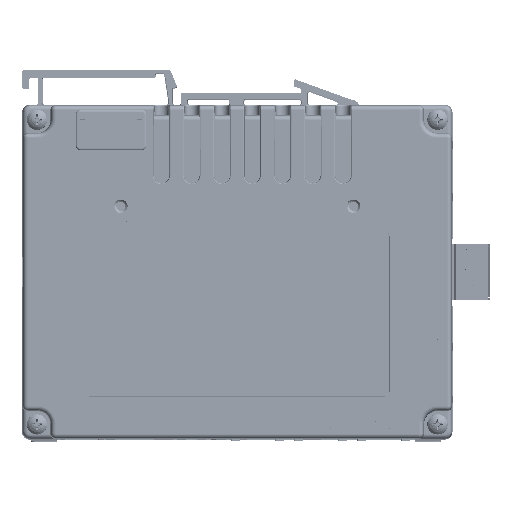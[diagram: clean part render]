
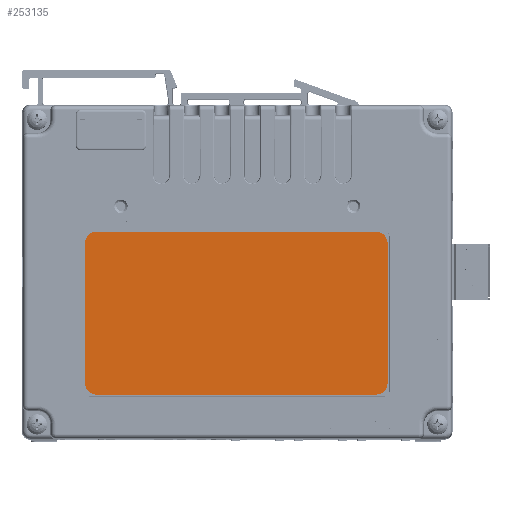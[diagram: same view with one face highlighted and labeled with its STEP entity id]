
A CAD part, top view. The second image highlights one B-rep face of the part: STEP entity #253135.
In plain terms, the highlighted planar face has unit normal (0, 0, 1) as drawn and (0, 1, 0) by its records, which use the part's own axes.
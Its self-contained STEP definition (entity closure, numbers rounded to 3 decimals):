
#7107=CIRCLE('',#302644,3.175);
#7108=CIRCLE('',#302645,3.175);
#7109=CIRCLE('',#302646,3.175);
#7110=CIRCLE('',#302647,3.175);
#16762=PLANE('',#302643);
#90972=ORIENTED_EDGE('',*,*,#127494,.F.);
#90973=ORIENTED_EDGE('',*,*,#127504,.T.);
#90974=ORIENTED_EDGE('',*,*,#127488,.F.);
#90975=ORIENTED_EDGE('',*,*,#127505,.T.);
#90976=ORIENTED_EDGE('',*,*,#127502,.F.);
#90977=ORIENTED_EDGE('',*,*,#127506,.T.);
#90978=ORIENTED_EDGE('',*,*,#127498,.F.);
#90979=ORIENTED_EDGE('',*,*,#127507,.T.);
#127488=EDGE_CURVE('',#151475,#151476,#180873,.T.);
#127494=EDGE_CURVE('',#151481,#151482,#180879,.T.);
#127498=EDGE_CURVE('',#151485,#151486,#180883,.T.);
#127502=EDGE_CURVE('',#151489,#151490,#180887,.T.);
#127504=EDGE_CURVE('',#151481,#151476,#7107,.F.);
#127505=EDGE_CURVE('',#151475,#151490,#7108,.F.);
#127506=EDGE_CURVE('',#151489,#151486,#7109,.F.);
#127507=EDGE_CURVE('',#151485,#151482,#7110,.F.);
#151475=VERTEX_POINT('',#479402);
#151476=VERTEX_POINT('',#479403);
#151481=VERTEX_POINT('',#479414);
#151482=VERTEX_POINT('',#479416);
#151485=VERTEX_POINT('',#479423);
#151486=VERTEX_POINT('',#479425);
#151489=VERTEX_POINT('',#479432);
#151490=VERTEX_POINT('',#479434);
#180873=LINE('',#479401,#210275);
#180879=LINE('',#479415,#210281);
#180883=LINE('',#479424,#210285);
#180887=LINE('',#479433,#210289);
#210275=VECTOR('',#366829,1000.);
#210281=VECTOR('',#366837,1000.);
#210285=VECTOR('',#366843,1000.);
#210289=VECTOR('',#366849,1000.);
#224162=EDGE_LOOP('',(#90972,#90973,#90974,#90975,#90976,#90977,#90978,
#90979));
#238025=FACE_BOUND('',#224162,.T.);
#253135=ADVANCED_FACE('',(#238025),#16762,.F.);
#302643=AXIS2_PLACEMENT_3D('',#479436,#366851,#366852);
#302644=AXIS2_PLACEMENT_3D('',#479437,#366853,#366854);
#302645=AXIS2_PLACEMENT_3D('',#479438,#366855,#366856);
#302646=AXIS2_PLACEMENT_3D('',#479439,#366857,#366858);
#302647=AXIS2_PLACEMENT_3D('',#479440,#366859,#366860);
#366829=DIRECTION('',(0.,0.,-1.));
#366837=DIRECTION('',(1.,0.,0.));
#366843=DIRECTION('',(0.,0.,1.));
#366849=DIRECTION('',(-1.,0.,0.));
#366851=DIRECTION('',(0.,-1.,0.));
#366852=DIRECTION('',(0.,0.,-1.));
#366853=DIRECTION('',(0.,-1.,0.));
#366854=DIRECTION('',(0.,0.,-1.));
#366855=DIRECTION('',(0.,-1.,0.));
#366856=DIRECTION('',(0.,0.,-1.));
#366857=DIRECTION('',(0.,-1.,0.));
#366858=DIRECTION('',(0.,0.,-1.));
#366859=DIRECTION('',(0.,-1.,0.));
#366860=DIRECTION('',(0.,0.,-1.));
#479401=CARTESIAN_POINT('',(-41.275,0.076,22.225));
#479402=CARTESIAN_POINT('',(-41.275,0.076,19.05));
#479403=CARTESIAN_POINT('',(-41.275,0.076,-19.05));
#479414=CARTESIAN_POINT('',(-38.1,0.076,-22.225));
#479415=CARTESIAN_POINT('',(-41.275,0.076,-22.225));
#479416=CARTESIAN_POINT('',(38.1,0.076,-22.225));
#479423=CARTESIAN_POINT('',(41.275,0.076,-19.05));
#479424=CARTESIAN_POINT('',(41.275,0.076,-22.225));
#479425=CARTESIAN_POINT('',(41.275,0.076,19.05));
#479432=CARTESIAN_POINT('',(38.1,0.076,22.225));
#479433=CARTESIAN_POINT('',(41.275,0.076,22.225));
#479434=CARTESIAN_POINT('',(-38.1,0.076,22.225));
#479436=CARTESIAN_POINT('',(0.,0.076,0.));
#479437=CARTESIAN_POINT('',(-38.1,0.076,-19.05));
#479438=CARTESIAN_POINT('',(-38.1,0.076,19.05));
#479439=CARTESIAN_POINT('',(38.1,0.076,19.05));
#479440=CARTESIAN_POINT('',(38.1,0.076,-19.05));
